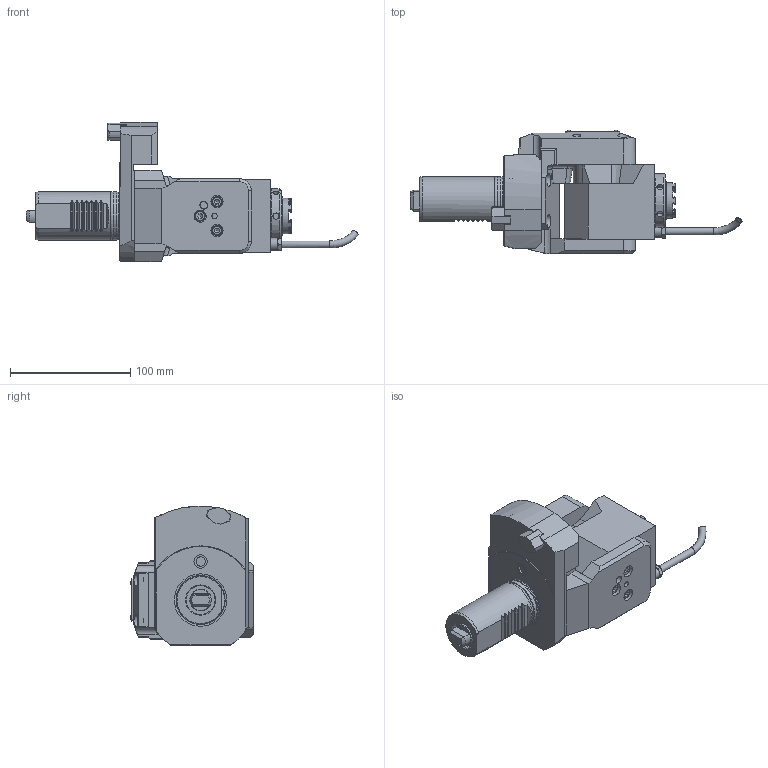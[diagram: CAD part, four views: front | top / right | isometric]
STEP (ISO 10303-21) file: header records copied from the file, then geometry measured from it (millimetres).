
FILE_DESCRIPTION(/* description */ (''),/* implementation_level */ '2;1');
FILE_NAME(/* name */ '192558',/* time_stamp */ '2020-01-15T07:58:36+01:00',/* author */ (''),/* organization */ (''),/* preprocessor_version */ 'ST-DEVELOPER v16.5',/* originating_system */ 'HiCAD 2017 2201.0 Build 268',/* authorisation */ '');
FILE_SCHEMA (('AUTOMOTIVE_DESIGN { 1 0 10303 214 1 1 1 1 }'));
Products named in the file (11): Root; Teil; ABCDEFGHIJKLMNOPQRSTUVWXYZ[\]^_`ABCDEFGHIJKLMNOP햐퉯ǂ; DIN 13-M10x1; DIN 76-M6; 0°
Assembly tree (10 placements, depth 3):
  Root
    Teil
      ABCDEFGHIJKLMNOPQRSTUVWXYZ[\]^_`ABCDEFGHIJKLMNOP햐퉯ǂ
      ABCDEFGHIJKLMNOPQRSTUVWXYZ[\]^_`ABCDEFGHIJKLMNOP햐퉯ǂ
      ABCDEFGHIJKLMNOPQRSTUVWXYZ[\]^_`ABCDEFGHIJKLMNOP햐퉯ǂ
      ABCDEFGHIJKLMNOPQRSTUVWXYZ[\]^_`ABCDEFGHIJKLMNOP햐퉯ǂ
      ABCDEFGHIJKLMNOPQRSTUVWXYZ[\]^_`ABCDEFGHIJKLMNOP햐퉯ǂ
      DIN 13-M10x1
      DIN 76-M6
      DIN 76-M6
      0°
Bounding box: 275.54 x 102.3 x 115.95 mm (x, y, z)
Volume: 791794.3 mm3; surface area: 107843.9 mm2
Topology: 13 solids, 31 shells, 1012 faces, 2531 edges, 1650 vertices
Faces by surface type: plane 629, cylinder 251, cone 48, bspline 44, torus 35, sphere 5
Full cylindrical faces by diameter (mm): 2 x4, 2.2 x4, 3 x1, 3.141 x2, 4 x3, 4.5 x1, 4.773 x7, 5 x4, 5.1 x6, 5.5 x7, 6 x13, 6.1 x1, 6.25 x1, 6.5 x3, 6.6 x4, 7.65 x1, 8 x1, 8.5 x7, 8.773 x2, 8.92 x1, 9 x1, 10 x15, 11 x4, 11.01 x1, 11.1 x1, 18 x1, 18.2 x1, 19 x1, 21 x2, 23.4 x1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
Entity records: 65497 total; most frequent: CARTESIAN_POINT 16551, PRESENTATION_STYLE_ASSIGNMENT 5051, OVER_RIDING_STYLED_ITEM 5042, DIRECTION 4632, COLOUR_RGB 4555, DRAUGHTING_PRE_DEFINED_CURVE_FONT 4554, CURVE_STYLE 4554, ORIENTED_EDGE 4554
